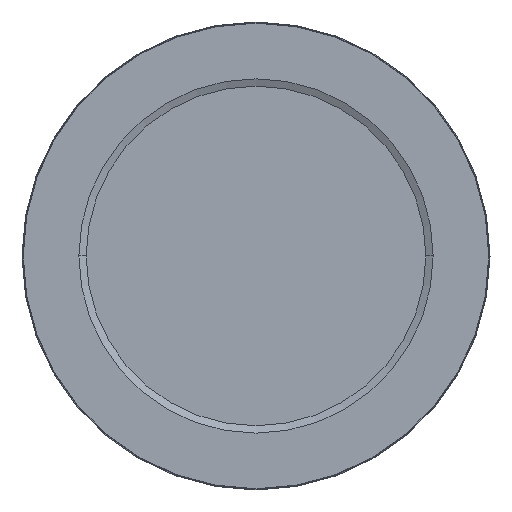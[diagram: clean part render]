
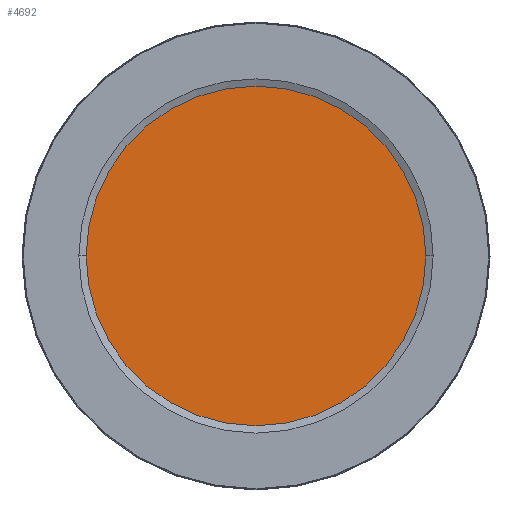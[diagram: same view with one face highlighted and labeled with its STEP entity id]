
A CAD part, top view. The second image highlights one B-rep face of the part: STEP entity #4692.
In plain terms, the highlighted planar face has unit normal (0, 0, 1).
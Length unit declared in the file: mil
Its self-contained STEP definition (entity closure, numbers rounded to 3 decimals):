
#1219 = DIRECTION ( 'NONE',  ( 0., 0., 1. ) ) ;
#2477 = VERTEX_POINT ( 'NONE', #16264 ) ;
#4692 = ADVANCED_FACE ( 'NONE', ( #9248 ), #7678, .T. ) ;
#4868 = EDGE_CURVE ( 'NONE', #8422, #2477, #14886, .T. ) ;
#5159 = AXIS2_PLACEMENT_3D ( 'NONE', #11501, #1219, #8122 ) ;
#5607 = ORIENTED_EDGE ( 'NONE', *, *, #4868, .T. ) ;
#6584 = CARTESIAN_POINT ( 'NONE',  ( 0., 0., -615.748 ) ) ;
#6633 = AXIS2_PLACEMENT_3D ( 'NONE', #6584, #15068, #20050 ) ;
#6940 = AXIS2_PLACEMENT_3D ( 'NONE', #18195, #7462, #17761 ) ;
#7462 = DIRECTION ( 'NONE',  ( 0., 0., 1. ) ) ;
#7678 = PLANE ( 'NONE',  #6940 ) ;
#8122 = DIRECTION ( 'NONE',  ( 1., 0., 0. ) ) ;
#8422 = VERTEX_POINT ( 'NONE', #18535 ) ;
#8433 = CIRCLE ( 'NONE', #6633, 1171.214 ) ;
#9142 = EDGE_CURVE ( 'NONE', #2477, #8422, #8433, .T. ) ;
#9248 = FACE_OUTER_BOUND ( 'NONE', #10366, .T. ) ;
#10366 = EDGE_LOOP ( 'NONE', ( #12107, #5607 ) ) ;
#11501 = CARTESIAN_POINT ( 'NONE',  ( 0., 0., -615.748 ) ) ;
#12107 = ORIENTED_EDGE ( 'NONE', *, *, #9142, .T. ) ;
#14886 = CIRCLE ( 'NONE', #5159, 1171.214 ) ;
#15068 = DIRECTION ( 'NONE',  ( 0., 0., 1. ) ) ;
#16264 = CARTESIAN_POINT ( 'NONE',  ( -1171.214, 0., -615.748 ) ) ;
#17761 = DIRECTION ( 'NONE',  ( 1., 0., 0. ) ) ;
#18195 = CARTESIAN_POINT ( 'NONE',  ( 0., 0., -615.748 ) ) ;
#18535 = CARTESIAN_POINT ( 'NONE',  ( 1171.214, 0., -615.748 ) ) ;
#20050 = DIRECTION ( 'NONE',  ( -1., 0., 0. ) ) ;
